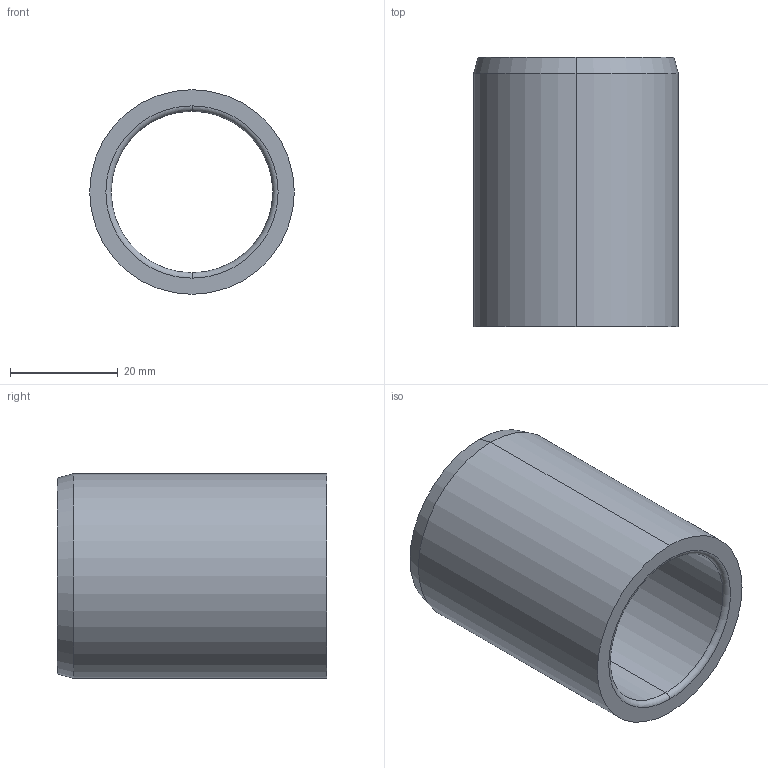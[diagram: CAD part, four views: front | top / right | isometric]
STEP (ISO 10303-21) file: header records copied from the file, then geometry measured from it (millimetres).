
FILE_DESCRIPTION (( 'STEP AP214' ), '1' );
FILE_NAME ('WZ9040_30x50.STEP', '2016-06-23T00:07:21', ( '' ), ( '' ), 'SwSTEP 2.0', 'SolidWorks 2014', '' );
FILE_SCHEMA (( 'AUTOMOTIVE_DESIGN' ));
Length unit declared in the file: millimetre
Products named in the file (1): WZ9040_30x50
Bounding box: 38 x 50 x 38 mm (x, y, z)
Volume: 21179.9 mm3; surface area: 11366.8 mm2
Topology: 1 solids, 1 shells, 12 faces, 24 edges, 14 vertices
Faces by surface type: cylinder 4, torus 4, cone 2, plane 2
Entity records: 356 total; most frequent: DIRECTION 68, CARTESIAN_POINT 51, ORIENTED_EDGE 48, AXIS2_PLACEMENT_3D 31, EDGE_CURVE 24, CIRCLE 18, EDGE_LOOP 14, VERTEX_POINT 14
